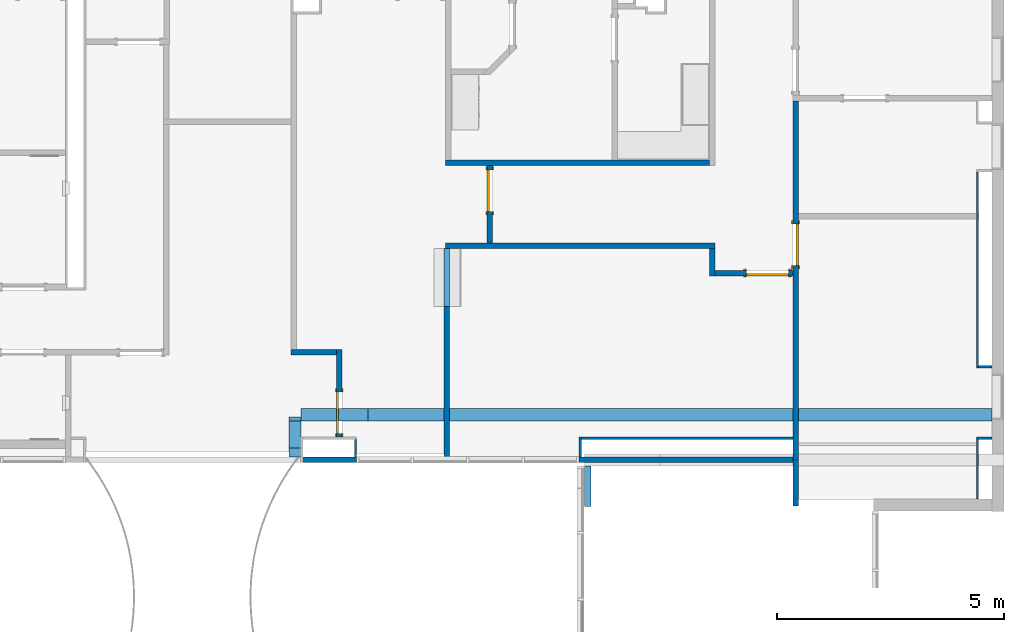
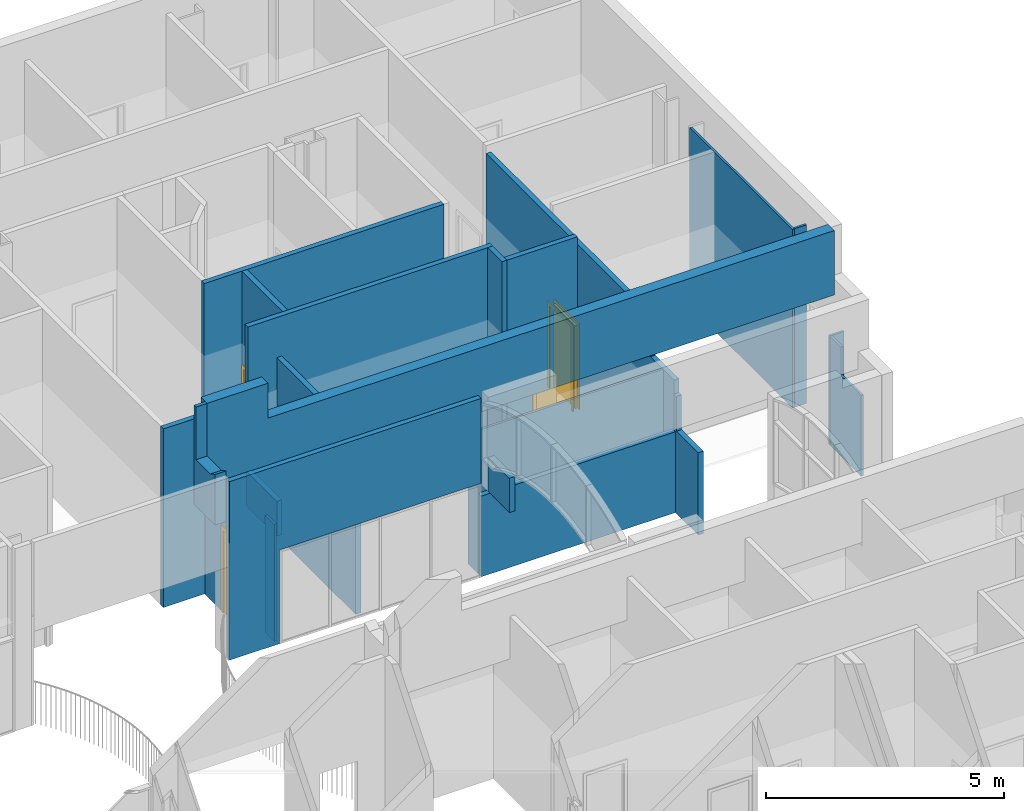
# One storey, part 18 of 45: 23 walls, 4 doors, 12 openings.
"""IFC2X3 building model written with IfcOpenShell, lengths in metres."""

from ifc_helpers import new_model, entity, si_unit, converted_unit, frame, frame_2d, origin, origin_2d_with_axis, place, context, project, spatial, polyline, circle_curve, parameter, trimmed, segment, composite_curve, rectangle, outline, extrude, clip, halfspace, bounded_halfspace, source, transform, mapped, material, layer, layer_set, layer_usage, type_object, type_shapes, element, fill, save


model = new_model("IFC2X3")

# Units and contexts
model_context = context("Model", 3, precision=1e-09, world=origin())
plan_context = context("Plan", 3, precision=1e-09, world=origin())
ifc_project = project(units=[si_unit("LENGTHUNIT", "METRE"), si_unit("AREAUNIT", "SQUARE_METRE"), si_unit("VOLUMEUNIT", "CUBIC_METRE"), converted_unit("PLANEANGLEUNIT", "DEGREE", entity("IfcRatioMeasure", 0.01745329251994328), si_unit("PLANEANGLEUNIT", "RADIAN"), dimensions=[0, 0, 0, 0, 0, 0, 0]), si_unit("TIMEUNIT", "SECOND")], contexts=[model_context, plan_context])

# Site, building, storey
site_placement = place(None, origin())
site = spatial("IfcSite", under=ifc_project, at=site_placement, Name="Default", CompositionType="ELEMENT")
building_placement = place(site_placement, origin())
building = spatial("IfcBuilding", under=site, at=building_placement, CompositionType="ELEMENT")
storey_placement = place(building_placement, frame((0.0, 0.0, 4.570000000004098)))
storey = spatial("IfcBuildingStorey", under=building, at=storey_placement, Name="Second Floor", CompositionType="ELEMENT", Elevation=4.570000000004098)

# Wall, openings, door
ifc_material_1 = material(Name="Plasterboard")
ifc_layer_1 = layer(ifc_material_1, 0.016)
ifc_material_2 = material(Name="Metal - Stud Layer")
ifc_layer_2 = layer(ifc_material_2, 0.092)
ifc_layer_3 = layer(ifc_material_1, 0.016)
ifc_layer_set_1 = layer_set([ifc_layer_1, ifc_layer_2, ifc_layer_3], Name="Basic Wall:Interior - Partition (92mm Stud)")
ifc_layer_usage_1 = layer_usage(ifc_layer_set_1, "AXIS2", "NEGATIVE", 0.062)
wall_1_placement = place(storey_placement, frame((-4.20800000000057, 42.6704387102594, 0.0), z_axis=(0.0, 0.0, 1.0), x_axis=(0.0, -1.0, 0.0)))
wall_1 = element("IfcWallStandardCase", 1, at=wall_1_placement, inside=storey, material=ifc_layer_usage_1, Name="Basic Wall:Interior - Partition (92mm Stud)", ObjectType="Basic Wall:Interior - Partition (92mm Stud)", context=model_context, shape_type="Clipping", body=[
    clip(extrude(rectangle(XDim=7.898637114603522, YDim=0.124, at=frame_2d((3.949318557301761, 0.0), x_axis=(-1.0, 0.0))), origin(), (0.0, 0.0, 1.0), 4.379999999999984), halfspace(frame((7.898637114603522, 0.0, 3.35319999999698), z_axis=(0.7191531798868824, 0.0, 0.6948515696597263), x_axis=(0.0, 1.0, 0.0)), False)),
])
opening_1_placement = place(wall_1_placement, frame((7.237235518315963, 0.06199999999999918, 3.695466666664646)))
element("IfcOpeningElement", 2, at=opening_1_placement, cuts=wall_1, Name="Basic Wall:Interior - Partition (92mm Stud):2", ObjectType="Opening", context=model_context, shape_type="SweptSolid", body=[
    extrude(outline(polyline([(-0.7057180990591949, -0.2378245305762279), (0.7220722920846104, -0.2378245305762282), (-0.01635419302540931, 0.4756490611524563), (-0.7057180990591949, -0.2378245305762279)])), frame((0.0, 0.0, 0.0), z_axis=(0.0, -1.0, 0.0), x_axis=(-0.6948515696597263, 0.0, 0.7191531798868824)), (0.0, 0.0, 1.0), 0.124),
])
opening_2_placement = place(wall_1_placement, frame((2.703500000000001, -0.06200000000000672, 0.0)))
opening_2 = element("IfcOpeningElement", 3, at=opening_2_placement, cuts=wall_1, Name="M_Single-Flush:0915 x 2134mm:0915 x 2134mm:1", ObjectType="Opening", context=model_context, shape_type="SweptSolid", body=[
    extrude(rectangle(XDim=0.9149999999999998, YDim=2.134, at=frame_2d((1.067, 0.4574999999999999), x_axis=(0.0, -1.0))), frame((0.0, 0.0, 0.0), z_axis=(0.0, 1.0, 0.0), x_axis=(0.0, 0.0, 1.0)), (0.0, 0.0, 1.0), 0.124),
])
door_style_1 = type_object("IfcDoorStyle", Name="0915 x 2134mm", ConstructionType="NOTDEFINED", OperationType="SINGLE_SWING_LEFT", ParameterTakesPrecedence=False, Sizeable=False)
shared_shape_1 = source(origin(), model_context, "Body", "SweptSolid", [
    extrude(outline(polyline([(-0.5335, -1.123999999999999), (0.5334999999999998, -1.123999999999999), (0.5334999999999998, 1.086), (0.4574999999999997, 1.086), (0.4574999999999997, -1.048000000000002), (-0.4574999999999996, -1.048000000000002), (-0.4574999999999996, 1.086), (-0.5335, 1.086), (-0.5335, -1.123999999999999)])), frame((0.4575000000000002, 0.1489999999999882, 1.086), z_axis=(0.0, -1.0, 0.0), x_axis=(-1.0, 0.0, 0.0)), (0.0, 0.0, 1.0), 0.02499999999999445),
    extrude(outline(polyline([(-1.123999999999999, -0.5334999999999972), (1.085999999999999, -0.5334999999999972), (1.085999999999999, -0.4575000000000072), (-1.048, -0.4575000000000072), (-1.048, 0.4575000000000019), (1.085999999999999, 0.4575000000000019), (1.085999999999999, 0.5335000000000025), (-1.123999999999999, 0.5335000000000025), (-1.123999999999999, -0.5334999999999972)])), frame((0.4574999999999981, 0.0, 1.085999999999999), z_axis=(0.0, -1.0, 0.0), x_axis=(0.0, 0.0, -1.0)), (0.0, 0.0, 1.0), 0.02500000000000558),
    extrude(rectangle(XDim=0.9149999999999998, YDim=0.051, at=origin_2d_with_axis()), frame((0.4575000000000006, 0.09849999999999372, 0.0)), (0.0, 0.0, 1.0), 2.133999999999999),
])
type_shapes(door_style_1, [shared_shape_1])
door_1_placement = place(opening_2_placement, origin())
door_1 = element("IfcDoor", 4, at=door_1_placement, inside=storey, type_object=door_style_1, Name="M_Single-Flush:0915 x 2134mm:0915 x 2134mm", ObjectType="0915 x 2134mm", OverallHeight=2.134, OverallWidth=0.9149999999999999, context=model_context, shape_type="MappedRepresentation", body=[
    mapped(shared_shape_1, transform((0.0, 0.0, 0.0), scale=1.0)),
])
fill(opening_2, door_1)

# Wall, opening
wall_2_placement = place(storey_placement, frame((-8.981726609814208, 34.7718015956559, 0.0), z_axis=(0.0, 0.0, 1.0), x_axis=(-1.0, 0.0, 0.0)))
wall_2 = element("IfcWallStandardCase", 5, at=wall_2_placement, inside=storey, material=ifc_layer_usage_1, Name="Basic Wall:Interior - Partition (92mm Stud)", ObjectType="Basic Wall:Interior - Partition (92mm Stud)", context=model_context, shape_type="SweptSolid", body=[
    extrude(rectangle(XDim=6.101248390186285, YDim=0.1239999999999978, at=frame_2d((3.050624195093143, 0.0), x_axis=(-1.0, 0.0))), origin(), (0.0, 0.0, 1.0), 4.577999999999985),
])
opening_3_placement = place(wall_2_placement, origin())
element("IfcOpeningElement", 6, at=opening_3_placement, cuts=wall_2, ObjectType="Opening", context=model_context, shape_type="SweptSolid", body=[
    extrude(rectangle(XDim=2.4, YDim=4.89077339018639, at=origin_2d_with_axis()), frame((2.445386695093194, -0.2144000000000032, 1.199999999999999), z_axis=(0.0, 1.0, 0.0), x_axis=(0.0, 0.0, 1.0)), (0.0, 0.0, 1.0), 0.4288000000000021),
])

# Walls
wall_3_placement = place(storey_placement, frame((-6.104000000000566, 41.31643871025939, 0.0), z_axis=(0.0, 0.0, 1.0), x_axis=(-1.0, 0.0, 0.0)))
element("IfcWallStandardCase", 7, at=wall_3_placement, inside=storey, material=ifc_layer_usage_1, Name="Basic Wall:Interior - Partition (92mm Stud)", ObjectType="Basic Wall:Interior - Partition (92mm Stud)", context=model_context, shape_type="SweptSolid", body=[
    extrude(rectangle(XDim=5.815999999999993, YDim=0.1240000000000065, at=frame_2d((2.907999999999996, 0.0), x_axis=(-1.0, 0.0))), origin(), (0.0, 0.0, 1.0), 4.577999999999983),
])
wall_4_placement = place(storey_placement, frame((-11.92000000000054, 39.4824387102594, 0.0)))
element("IfcWallStandardCase", 8, at=wall_4_placement, inside=storey, material=ifc_layer_usage_1, Name="Basic Wall:Interior - Partition (92mm Stud)", ObjectType="Basic Wall:Interior - Partition (92mm Stud)", context=model_context, shape_type="SweptSolid", body=[
    extrude(rectangle(XDim=5.940000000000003, YDim=0.1240000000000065, at=frame_2d((2.970000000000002, 0.0), x_axis=(-1.0, 0.0))), origin(), (0.0, 0.0, 1.0), 4.577999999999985),
])

# Wall, openings, door
wall_5_placement = place(storey_placement, frame((-14.25800000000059, 35.27443871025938, 0.0), z_axis=(0.0, 0.0, 1.0), x_axis=(0.0, 1.0, 0.0)))
wall_5 = element("IfcWallStandardCase", 9, at=wall_5_placement, inside=storey, material=ifc_layer_usage_1, Name="Basic Wall:Interior - Partition (92mm Stud)", ObjectType="Basic Wall:Interior - Partition (92mm Stud)", context=model_context, shape_type="Clipping", body=[
    clip(extrude(rectangle(XDim=1.924000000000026, YDim=0.1240000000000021, at=frame_2d((0.9620000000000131, 0.0), x_axis=(-1.0, 0.0))), origin(), (0.0, 0.0, 1.0), 4.577999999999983), halfspace(frame((0.4894652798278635, 0.0, 4.577999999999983), z_axis=(-0.9198990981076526, 0.0, 0.3921551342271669), x_axis=(0.0, 1.0, 0.0)), False)),
])
opening_4_placement = place(wall_5_placement, frame((0.3173101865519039, 0.06200000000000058, 3.770333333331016)))
element("IfcOpeningElement", 10, at=opening_4_placement, cuts=wall_5, Name="Basic Wall:Interior - Partition (92mm Stud):2", ObjectType="Opening", context=model_context, shape_type="SweptSolid", body=[
    extrude(outline(polyline([(-0.8104833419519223, -0.1583653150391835), (0.5065089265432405, -0.1583653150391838), (0.3039744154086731, 0.3167306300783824), (-0.8104833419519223, -0.1583653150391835)])), frame((0.0, 0.0, 0.0), z_axis=(0.0, -1.0, 0.0), x_axis=(-0.3921551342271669, 0.0, -0.9198990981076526)), (0.0, 0.0, 1.0), 0.124),
])
opening_5_placement = place(wall_5_placement, frame((0.08000000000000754, -0.06200000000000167, 0.0)))
opening_5 = element("IfcOpeningElement", 11, at=opening_5_placement, cuts=wall_5, Name="M_Single-Flush:0915 x 2134mm:0915 x 2134mm:1", ObjectType="Opening", context=model_context, shape_type="SweptSolid", body=[
    extrude(rectangle(XDim=0.9149999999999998, YDim=2.134, at=frame_2d((1.067, 0.4575000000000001), x_axis=(0.0, -1.0))), frame((0.0, 0.0, 0.0), z_axis=(0.0, 1.0, 0.0), x_axis=(0.0, 0.0, 1.0)), (0.0, 0.0, 1.0), 0.124),
])
door_2_placement = place(opening_5_placement, origin())
door_2 = element("IfcDoor", 12, at=door_2_placement, inside=storey, type_object=door_style_1, Name="M_Single-Flush:0915 x 2134mm:0915 x 2134mm", ObjectType="0915 x 2134mm", OverallHeight=2.134, OverallWidth=0.9149999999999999, context=model_context, shape_type="MappedRepresentation", body=[
    mapped(shared_shape_1, transform((0.0, 0.0, 0.0), scale=1.0)),
])
fill(opening_5, door_2)

# Wall, opening
wall_6_placement = place(storey_placement, frame((-4.208000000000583, 34.77180159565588, 0.0), z_axis=(0.0, 0.0, 1.0), x_axis=(0.0, -1.0, 0.0)))
wall_6 = element("IfcWallStandardCase", 13, at=wall_6_placement, inside=storey, material=ifc_layer_usage_1, Name="Basic Wall:Interior - Partition (92mm Stud)", ObjectType="Basic Wall:Interior - Partition (92mm Stud)", context=model_context, shape_type="Clipping", body=[
    clip(extrude(rectangle(XDim=1.017801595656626, YDim=0.124, at=frame_2d((0.5089007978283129, 0.0), x_axis=(-1.0, 0.0))), origin(), (0.0, 0.0, 1.0), 2.999999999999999), halfspace(frame((1.079801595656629, 0.0, 2.109499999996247), z_axis=(0.6732558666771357, 0.0, 0.7394095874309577), x_axis=(0.0, 1.0, 0.0)), False)),
])
opening_6_placement = place(wall_6_placement, frame((0.427801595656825, 0.06199999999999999, 2.40633333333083)))
element("IfcOpeningElement", 14, at=opening_6_placement, cuts=wall_6, Name="Basic Wall:Interior - Partition (92mm Stud):2", ObjectType="Opening", context=model_context, shape_type="SweptSolid", body=[
    extrude(outline(polyline([(-0.6819398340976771, -0.2194814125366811), (0.6407370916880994, -0.2194814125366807), (0.04120274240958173, 0.4389628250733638), (-0.6819398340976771, -0.2194814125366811)])), frame((0.0, 0.0, 0.0), z_axis=(0.0, -1.0, 0.0), x_axis=(-0.7394095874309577, 0.0, 0.6732558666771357)), (0.0, 0.0, 1.0), 0.124),
])

ifc_layer_4 = layer(ifc_material_2, 0.038)
ifc_layer_5 = layer(ifc_material_1, 0.016)
ifc_layer_set_2 = layer_set([ifc_layer_4, ifc_layer_5], Name="Basic Wall:Interior - Furring (38 mm Stud)")
ifc_layer_usage_2 = layer_usage(ifc_layer_set_2, "AXIS2", "NEGATIVE", 0.027)
wall_7_placement = place(storey_placement, frame((-0.2030000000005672, 35.2204387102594, 0.0), z_axis=(0.0, 0.0, 1.0), x_axis=(0.0, -1.0, 0.0)))
wall_7 = element("IfcWallStandardCase", 15, at=wall_7_placement, inside=storey, material=ifc_layer_usage_2, Name="Basic Wall:Interior - Furring (38 mm Stud)", ObjectType="Basic Wall:Interior - Furring (38 mm Stud)", context=model_context, shape_type="Clipping", body=[
    clip(extrude(rectangle(XDim=1.313438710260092, YDim=0.05400000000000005, at=frame_2d((0.656719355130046, 0.0), x_axis=(-1.0, 0.0))), origin(), (0.0, 0.0, 1.0), 2.799999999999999), halfspace(frame((1.446938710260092, 0.0, 2.071499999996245), z_axis=(0.5926855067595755, 0.0, 0.8054339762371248), x_axis=(0.0, 1.0, 0.0)), False)),
])
opening_7_placement = place(wall_7_placement, frame((0.786938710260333, 0.02700000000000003, 2.31433333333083)))
element("IfcOpeningElement", 16, at=opening_7_placement, cuts=wall_7, Name="Basic Wall:Interior - Furring (38 mm Stud):2", ObjectType="Opening", context=model_context, shape_type="SweptSolid", body=[
    extrude(outline(polyline([(-0.6755102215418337, -0.1955862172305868), (0.5536408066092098, -0.195586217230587), (0.1218694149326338, 0.3911724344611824), (-0.6755102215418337, -0.1955862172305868)])), frame((0.0, 0.0, 0.0), z_axis=(0.0, -1.0, 0.0), x_axis=(-0.8054339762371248, 0.0, 0.5926855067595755)), (0.0, 0.0, 1.0), 0.05400000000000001),
])

# Wall, opening, door
wall_8_placement = place(storey_placement, frame((-5.980000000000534, 38.88243871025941, 0.0)))
wall_8 = element("IfcWallStandardCase", 17, at=wall_8_placement, inside=storey, material=ifc_layer_usage_1, Name="Basic Wall:Interior - Partition (92mm Stud)", ObjectType="Basic Wall:Interior - Partition (92mm Stud)", context=model_context, shape_type="SweptSolid", body=[
    extrude(rectangle(XDim=1.709999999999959, YDim=0.1239999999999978, at=frame_2d((0.8549999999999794, 0.0), x_axis=(-1.0, 0.0))), origin(), (0.0, 0.0, 1.0), 4.577999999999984),
])
opening_8_placement = place(wall_8_placement, frame((1.609999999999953, 0.0619999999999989, 0.0)))
opening_8 = element("IfcOpeningElement", 18, at=opening_8_placement, cuts=wall_8, Name="M_Single-Flush:0915 x 2134mm:0915 x 2134mm:1", ObjectType="Opening", context=model_context, shape_type="SweptSolid", body=[
    extrude(rectangle(XDim=0.9149999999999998, YDim=2.134, at=frame_2d((1.067, 0.4575000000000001), x_axis=(0.0, -1.0))), frame((0.0, 0.0, 0.0), z_axis=(0.0, -1.0, 0.0), x_axis=(0.0, 0.0, 1.0)), (0.0, 0.0, 1.0), 0.124),
])
door_3_placement = place(opening_8_placement, frame((0.0, 0.0, 0.0), z_axis=(0.0, 0.0, 1.0), x_axis=(-1.0, 0.0, 0.0)))
door_3 = element("IfcDoor", 19, at=door_3_placement, inside=storey, type_object=door_style_1, Name="M_Single-Flush:0915 x 2134mm:0915 x 2134mm", ObjectType="0915 x 2134mm", OverallHeight=2.134, OverallWidth=0.9149999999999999, context=model_context, shape_type="MappedRepresentation", body=[
    mapped(shared_shape_1, transform((0.0, 0.0, 0.0), scale=1.0)),
])
fill(opening_8, door_3)

wall_9_placement = place(storey_placement, frame((-10.94300000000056, 39.54443871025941, 0.0), z_axis=(0.0, 0.0, 1.0), x_axis=(0.0, 1.0, 0.0)))
wall_9 = element("IfcWallStandardCase", 20, at=wall_9_placement, inside=storey, material=ifc_layer_usage_1, Name="Basic Wall:Interior - Partition (92mm Stud)", ObjectType="Basic Wall:Interior - Partition (92mm Stud)", context=model_context, shape_type="SweptSolid", body=[
    extrude(rectangle(XDim=1.710000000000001, YDim=0.1240000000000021, at=frame_2d((0.8550000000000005, 0.0), x_axis=(-1.0, 0.0))), origin(), (0.0, 0.0, 1.0), 4.577999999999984),
])
opening_9_placement = place(wall_9_placement, frame((0.694999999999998, -0.06200000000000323, 0.0)))
opening_9 = element("IfcOpeningElement", 21, at=opening_9_placement, cuts=wall_9, Name="M_Single-Flush:0915 x 2134mm:0915 x 2134mm:1", ObjectType="Opening", context=model_context, shape_type="SweptSolid", body=[
    extrude(rectangle(XDim=0.9149999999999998, YDim=2.134, at=frame_2d((1.067, 0.4575), x_axis=(0.0, 1.0))), frame((0.0, 0.0, 0.0), z_axis=(0.0, 1.0, 0.0), x_axis=(0.0, 0.0, 1.0)), (0.0, 0.0, 1.0), 0.124),
])
door_style_2 = type_object("IfcDoorStyle", Name="0915 x 2134mm", ConstructionType="NOTDEFINED", OperationType="SINGLE_SWING_RIGHT", ParameterTakesPrecedence=False, Sizeable=False)
shared_shape_2 = source(origin(), model_context, "Body", "SweptSolid", [
    extrude(outline(polyline([(-0.5335, -1.123999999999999), (0.5334999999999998, -1.123999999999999), (0.5334999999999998, 1.086), (0.4574999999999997, 1.086), (0.4574999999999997, -1.048000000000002), (-0.4574999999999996, -1.048000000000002), (-0.4574999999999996, 1.086), (-0.5335, 1.086), (-0.5335, -1.123999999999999)])), frame((0.4575000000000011, 0.1239999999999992, 1.086), z_axis=(0.0, 1.0, 0.0), x_axis=(1.0, 0.0, 0.0)), (0.0, 0.0, 1.0), 0.02499999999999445),
    extrude(outline(polyline([(-1.123999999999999, -0.5334999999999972), (1.085999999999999, -0.5334999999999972), (1.085999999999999, -0.4575000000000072), (-1.048, -0.4575000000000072), (-1.048, 0.4575000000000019), (1.085999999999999, 0.4575000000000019), (1.085999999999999, 0.5335000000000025), (-1.123999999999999, 0.5335000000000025), (-1.123999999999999, -0.5334999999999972)])), frame((0.4575000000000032, -0.02500000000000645, 1.085999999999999), z_axis=(0.0, 1.0, 0.0), x_axis=(0.0, 0.0, -1.0)), (0.0, 0.0, 1.0), 0.02500000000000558),
    extrude(rectangle(XDim=0.051, YDim=0.9149999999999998, at=origin_2d_with_axis()), frame((0.4575000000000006, 0.09849999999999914, 0.0), z_axis=(0.0, 0.0, 1.0), x_axis=(0.0, 1.0, 0.0)), (0.0, 0.0, 1.0), 2.133999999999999),
])
type_shapes(door_style_2, [shared_shape_2])
door_4_placement = place(opening_9_placement, origin())
door_4 = element("IfcDoor", 22, at=door_4_placement, inside=storey, type_object=door_style_2, Name="M_Single-Flush:0915 x 2134mm:0915 x 2134mm", ObjectType="0915 x 2134mm", OverallHeight=2.134, OverallWidth=0.9149999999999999, context=model_context, shape_type="MappedRepresentation", body=[
    mapped(shared_shape_2, transform((0.0, 0.0, 0.0), scale=1.0)),
])
fill(opening_9, door_4)

# Walls
wall_10_placement = place(storey_placement, frame((-0.2030000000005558, 41.1104387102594, 0.0), z_axis=(0.0, 0.0, 1.0), x_axis=(0.0, -1.0, 0.0)))
element("IfcWallStandardCase", 23, at=wall_10_placement, inside=storey, material=ifc_layer_usage_2, Name="Basic Wall:Interior - Furring (38 mm Stud)", ObjectType="Basic Wall:Interior - Furring (38 mm Stud)", context=model_context, shape_type="SweptSolid", body=[
    extrude(rectangle(XDim=4.314800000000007, YDim=0.05400000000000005, at=frame_2d((2.157400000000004, 0.0), x_axis=(-1.0, 0.0))), origin(), (0.0, 0.0, 1.0), 4.577999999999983),
])
wall_11_placement = place(storey_placement, frame((-8.981726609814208, 34.7718015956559, 0.0)))
element("IfcWallStandardCase", 24, at=wall_11_placement, inside=storey, material=ifc_layer_usage_1, Name="Basic Wall:Interior - Partition (92mm Stud)", ObjectType="Basic Wall:Interior - Partition (92mm Stud)", context=model_context, shape_type="SweptSolid", body=[
    extrude(rectangle(XDim=4.711726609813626, YDim=0.1239999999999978, at=frame_2d((2.355863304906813, 0.0), x_axis=(-1.0, 0.0))), origin(), (0.0, 0.0, 1.0), 2.071499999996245),
])

# Wall, opening
ifc_material_3 = material(Name="Insulation - Insulated Panel")
ifc_layer_6 = layer(ifc_material_3, 0.042)
ifc_material_4 = material(Name="Metal - Firring")
ifc_layer_7 = layer(ifc_material_4, 0.038)
ifc_material_5 = material(Name="Wood - Sheathing - plywood")
ifc_layer_8 = layer(ifc_material_5, 0.019)
ifc_layer_9 = layer(ifc_material_2, 0.152)
ifc_layer_10 = layer(ifc_material_1, 0.016)
ifc_layer_set_3 = layer_set([ifc_layer_6, ifc_layer_7, ifc_layer_8, ifc_layer_9, ifc_layer_10], Name="Basic Wall:Exterior - Insul Panel on Mtl. Stud")
ifc_layer_usage_3 = layer_usage(ifc_layer_set_3, "AXIS2", "POSITIVE", -0.1335)
wall_12_placement = place(storey_placement, frame((-15.23000000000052, 34.83380159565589, 3.486499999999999), z_axis=(0.0, 0.0, 1.0), x_axis=(0.0, 1.0, 0.0)))
wall_12 = element("IfcWallStandardCase", 25, at=wall_12_placement, inside=storey, material=ifc_layer_usage_3, Name="Basic Wall:Exterior - Insul Panel on Mtl. Stud", ObjectType="Basic Wall:Exterior - Insul Panel on Mtl. Stud", context=model_context, shape_type="SweptSolid", body=[
    extrude(rectangle(XDim=0.8836885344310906, YDim=0.267, at=frame_2d((0.4418442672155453, 0.0), x_axis=(-1.0, 0.0))), origin(), (0.0, 0.0, 1.0), 2.543499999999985),
])
opening_10_placement = place(wall_12_placement, origin())
element("IfcOpeningElement", 26, at=opening_10_placement, cuts=wall_12, ObjectType="Opening", context=model_context, shape_type="SweptSolid", body=[
    extrude(outline(composite_curve([segment(polyline([(-3.935840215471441, 0.4658794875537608), (-3.935840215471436, -0.9317589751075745)]), True, "CONTINUOUS"), segment(trimmed(circle_curve(frame_2d((-0.0006862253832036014, 6.416606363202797), x_axis=(-1.0, 0.0)), 8.33570093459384), [parameter(61.8303182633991)], [parameter(118.1696817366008)], True, "PARAMETER"), True, "CONTINUOUS"), segment(polyline([(3.934467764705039, -0.9317589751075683), (3.934467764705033, 0.4658794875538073)]), True, "CONTINUOUS"), segment(polyline([(3.934467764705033, 0.4658794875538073), (3.336313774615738, 0.4658794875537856)]), True, "CONTINUOUS"), segment(trimmed(circle_curve(frame_2d((0.001372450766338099, 6.383921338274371), x_axis=(-1.0, 0.0)), 6.793015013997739), [parameter(60.59782404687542)], [parameter(119.4021759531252)], True, "PARAMETER"), False, "CONTINUOUS"), segment(polyline([(-3.333568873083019, 0.4658794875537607), (-3.935840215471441, 0.4658794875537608)]), True, "CONTINUOUS")], self_intersect=False)), frame((-3.139237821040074, -0.2859, 1.659379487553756), z_axis=(0.0, -1.0, 0.0), x_axis=(-1.0, 0.0, 0.0)), (0.0, 0.0, -1.0), 0.5718),
])

# Walls
wall_13_placement = place(storey_placement, frame((-14.32000000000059, 37.13643871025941, 0.0), z_axis=(0.0, 0.0, 1.0), x_axis=(-1.0, 0.0, 0.0)))
element("IfcWallStandardCase", 27, at=wall_13_placement, inside=storey, material=ifc_layer_usage_1, Name="Basic Wall:Interior - Partition (92mm Stud)", ObjectType="Basic Wall:Interior - Partition (92mm Stud)", context=model_context, shape_type="SweptSolid", body=[
    extrude(rectangle(XDim=1.000000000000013, YDim=0.1239999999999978, at=frame_2d((0.5000000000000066, 0.0), x_axis=(-1.0, 0.0))), origin(), (0.0, 0.0, 1.0), 4.577999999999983),
])
wall_14_placement = place(storey_placement, frame((-6.042000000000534, 39.42043871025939, 0.0), z_axis=(0.0, 0.0, 1.0), x_axis=(0.0, -1.0, 0.0)))
element("IfcWallStandardCase", 28, at=wall_14_placement, inside=storey, material=ifc_layer_usage_1, Name="Basic Wall:Interior - Partition (92mm Stud)", ObjectType="Basic Wall:Interior - Partition (92mm Stud)", context=model_context, shape_type="SweptSolid", body=[
    extrude(rectangle(XDim=0.5999999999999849, YDim=0.124, at=frame_2d((0.2999999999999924, 0.0), x_axis=(-1.0, 0.0))), origin(), (0.0, 0.0, 1.0), 4.577999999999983),
])
ifc_layer_usage_4 = layer_usage(ifc_layer_set_2, "AXIS2", "POSITIVE", -0.027)
wall_15_placement = place(storey_placement, frame((-8.954726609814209, 34.8338015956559, 0.0), z_axis=(0.0, 0.0, 1.0), x_axis=(0.0, 1.0, 0.0)))
element("IfcWallStandardCase", 29, at=wall_15_placement, inside=storey, material=ifc_layer_usage_4, Name="Basic Wall:Interior - Furring (38 mm Stud)", ObjectType="Basic Wall:Interior - Furring (38 mm Stud)", context=model_context, shape_type="SweptSolid", body=[
    extrude(rectangle(XDim=0.4406371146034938, YDim=0.05400000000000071, at=frame_2d((0.2203185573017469, 0.0), x_axis=(-1.0, 0.0))), origin(), (0.0, 0.0, 1.0), 3.366499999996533),
])

# Wall, opening
ifc_layer_usage_5 = layer_usage(ifc_layer_set_3, "AXIS2", "NEGATIVE", 0.1335)
wall_16_placement = place(storey_placement, frame((0.1129999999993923, 35.76390399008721, 3.486499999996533), z_axis=(0.0, 0.0, 1.0), x_axis=(-1.0, 0.0, 0.0)))
wall_16 = element("IfcWallStandardCase", 30, at=wall_16_placement, inside=storey, material=ifc_layer_usage_5, Name="Basic Wall:Exterior - Insul Panel on Mtl. Stud", ObjectType="Basic Wall:Exterior - Insul Panel on Mtl. Stud", context=model_context, shape_type="Clipping", body=[
    clip(extrude(rectangle(XDim=15.20949999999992, YDim=0.267, at=frame_2d((7.604749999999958, 0.0), x_axis=(-1.0, 0.0))), origin(), (0.0, 0.0, 1.0), 2.544328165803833), halfspace(frame((13.73299999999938, 0.0, 2.544328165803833), z_axis=(-0.06432603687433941, 0.0, 0.9979289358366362), x_axis=(0.0, 1.0, 0.0)), False)),
])
opening_11_placement = place(wall_16_placement, frame((9.110833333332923, 0.1335, 1.94844272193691)))
element("IfcOpeningElement", 31, at=opening_11_placement, cuts=wall_16, Name="Basic Wall:Exterior - Insul Panel on Mtl. Stud:2", ObjectType="Opening", context=model_context, shape_type="SweptSolid", body=[
    extrude(outline(polyline([(-4.650924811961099, 0.2973256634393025), (-4.5934283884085, -0.5946513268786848), (9.244353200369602, 0.2973256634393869), (-4.650924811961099, 0.2973256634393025)])), frame((0.0, 0.0, 0.0), z_axis=(0.0, 1.0, 0.0), x_axis=(-0.9979289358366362, 0.0, -0.06432603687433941)), (0.0, 0.0, -1.0), 0.267),
])

# Walls
ifc_layer_usage_6 = layer_usage(ifc_layer_set_1, "AXIS2", "POSITIVE", -0.062)
wall_17_placement = place(storey_placement, frame((-11.89200000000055, 38.1449715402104, 0.0), z_axis=(0.0, 0.0, 1.0), x_axis=(0.0, 1.0, 0.0)))
element("IfcWallStandardCase", 32, at=wall_17_placement, inside=storey, material=ifc_layer_usage_6, Name="Basic Wall:Interior - Partition (92mm Stud)", ObjectType="Basic Wall:Interior - Partition (92mm Stud)", context=model_context, shape_type="SweptSolid", body=[
    extrude(rectangle(XDim=1.275467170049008, YDim=0.1240000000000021, at=frame_2d((0.6377335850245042, 0.0), x_axis=(-1.0, 0.0))), origin(), (0.0, 0.0, 1.0), 0.8900000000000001),
])
wall_18_placement = place(storey_placement, frame((-13.8995000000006, 35.22043871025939, 0.0), z_axis=(0.0, 0.0, 1.0), x_axis=(0.0, -1.0, 0.0)))
element("IfcWallStandardCase", 33, at=wall_18_placement, inside=storey, material=ifc_layer_usage_4, Name="Basic Wall:Interior - Furring (38 mm Stud)", ObjectType="Basic Wall:Interior - Furring (38 mm Stud)", context=model_context, shape_type="SweptSolid", body=[
    extrude(rectangle(XDim=0.3866371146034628, YDim=0.05400000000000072, at=frame_2d((0.1933185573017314, 0.0), x_axis=(-1.0, 0.0))), origin(), (0.0, 0.0, 1.0), 2.999999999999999),
])
wall_19_placement = place(storey_placement, frame((-8.927726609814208, 35.2474387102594, 0.0)))
element("IfcWallStandardCase", 34, at=wall_19_placement, inside=storey, material=ifc_layer_usage_4, Name="Basic Wall:Interior - Furring (38 mm Stud)", ObjectType="Basic Wall:Interior - Furring (38 mm Stud)", context=model_context, shape_type="SweptSolid", body=[
    extrude(rectangle(XDim=4.657726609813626, YDim=0.05399999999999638, at=frame_2d((2.328863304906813, 0.0), x_axis=(-1.0, 0.0))), origin(), (0.0, 0.0, 1.0), 3.366499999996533),
])
wall_20_placement = place(storey_placement, frame((0.1129999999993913, 35.2474387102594, 0.0), z_axis=(0.0, 0.0, 1.0), x_axis=(-1.0, 0.0, 0.0)))
element("IfcWallStandardCase", 35, at=wall_20_placement, inside=storey, material=ifc_layer_usage_2, Name="Basic Wall:Interior - Furring (38 mm Stud)", ObjectType="Basic Wall:Interior - Furring (38 mm Stud)", context=model_context, shape_type="SweptSolid", body=[
    extrude(rectangle(XDim=0.3429999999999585, YDim=0.05399999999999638, at=frame_2d((0.1714999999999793, 0.0), x_axis=(-1.0, 0.0))), origin(), (0.0, 0.0, 1.0), 2.799999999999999),
])

# Wall, opening
wall_21_placement = place(storey_placement, frame((-11.89200000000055, 38.1449715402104, 0.0), z_axis=(0.0, 0.0, 1.0), x_axis=(0.0, -1.0, 0.0)))
wall_21 = element("IfcWallStandardCase", 36, at=wall_21_placement, inside=storey, material=ifc_layer_usage_1, Name="Basic Wall:Interior - Partition (92mm Stud)", ObjectType="Basic Wall:Interior - Partition (92mm Stud)", context=model_context, shape_type="Clipping", body=[
    clip(extrude(rectangle(XDim=3.311169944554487, YDim=0.1240000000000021, at=frame_2d((1.655584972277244, 0.0), x_axis=(-1.0, 0.0))), origin(), (0.0, 0.0, 1.0), 4.577999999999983), halfspace(frame((3.373169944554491, 0.0, 3.366499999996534), z_axis=(0.7736833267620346, 0.0, 0.6335724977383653), x_axis=(0.0, 1.0, 0.0)), False)),
])
opening_12_placement = place(wall_21_placement, frame((2.711768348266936, 0.06200000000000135, 3.770333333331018)))
element("IfcOpeningElement", 37, at=opening_12_placement, cuts=wall_21, Name="Basic Wall:Interior - Partition (92mm Stud):2", ObjectType="Opening", context=model_context, shape_type="SweptSolid", body=[
    extrude(outline(polyline([(-0.731484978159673, -0.2558576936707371), (0.8344011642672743, -0.255857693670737), (-0.1029161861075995, 0.5117153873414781), (-0.731484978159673, -0.2558576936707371)])), frame((0.0, 0.0, 0.0), z_axis=(0.0, -1.0, 0.0), x_axis=(-0.6335724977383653, 0.0, 0.7736833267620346)), (0.0, 0.0, 1.0), 0.124),
])

# Walls
wall_22_placement = place(storey_placement, frame((-0.1760000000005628, 36.82263871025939, 0.0)))
element("IfcWallStandardCase", 38, at=wall_22_placement, inside=storey, material=ifc_layer_usage_2, Name="Basic Wall:Interior - Furring (38 mm Stud)", ObjectType="Basic Wall:Interior - Furring (38 mm Stud)", context=model_context, shape_type="SweptSolid", body=[
    extrude(rectangle(XDim=0.2889999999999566, YDim=0.05399999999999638, at=frame_2d((0.1444999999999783, 0.0), x_axis=(-1.0, 0.0))), origin(), (0.0, 0.0, 1.0), 4.577999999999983),
])
wall_23_placement = place(storey_placement, frame((-8.848226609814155, 33.74400000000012, 2.1915), z_axis=(0.0, 0.0, 1.0), x_axis=(0.0, 1.0, 0.0)))
element("IfcWallStandardCase", 39, at=wall_23_placement, inside=storey, material=ifc_layer_usage_3, Name="Basic Wall:Exterior - Insul Panel on Mtl. Stud", ObjectType="Basic Wall:Exterior - Insul Panel on Mtl. Stud", context=model_context, shape_type="Clipping", body=[
    clip(extrude(rectangle(XDim=0.8859999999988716, YDim=0.2669999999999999, at=frame_2d((0.4429999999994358, 0.0), x_axis=(-1.0, 0.0))), origin(), (0.0, 0.0, 1.0), 0.8785000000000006), bounded_halfspace(frame((0.8859999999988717, 0.009500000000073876, 0.0), z_axis=(0.0, -1.0, 0.0), x_axis=(1.0, 0.0, 0.0)), True, frame((0.8859999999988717, 0.009500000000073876, 0.0), z_axis=(0.0, -1.0, 0.0), x_axis=(1.0, 0.0, 0.0)), polyline([(0.0, 0.0), (0.0, 0.8785000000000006), (-0.4927914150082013, 0.8785000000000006), (-0.8859999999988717, 0.8785000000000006), (-0.8859999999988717, 0.0), (0.0, 0.0)]))),
])

save(model, "model.ifc")
